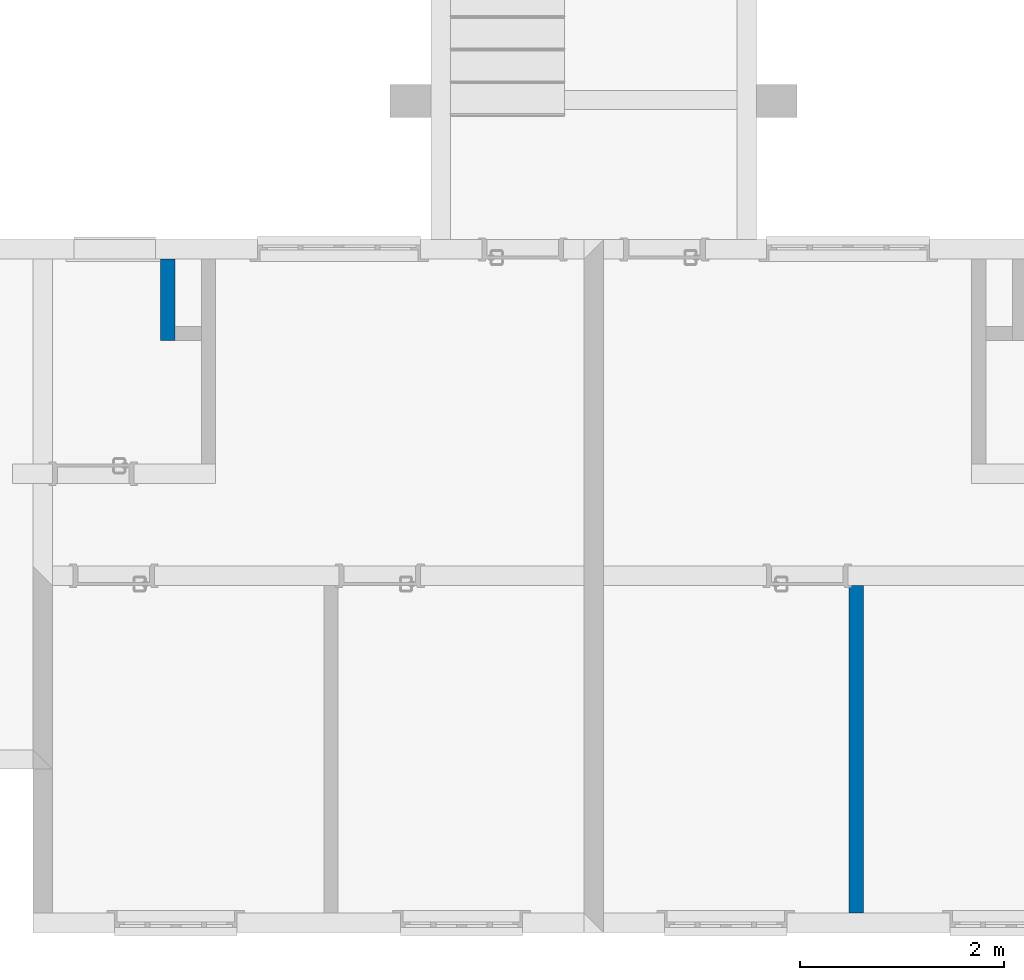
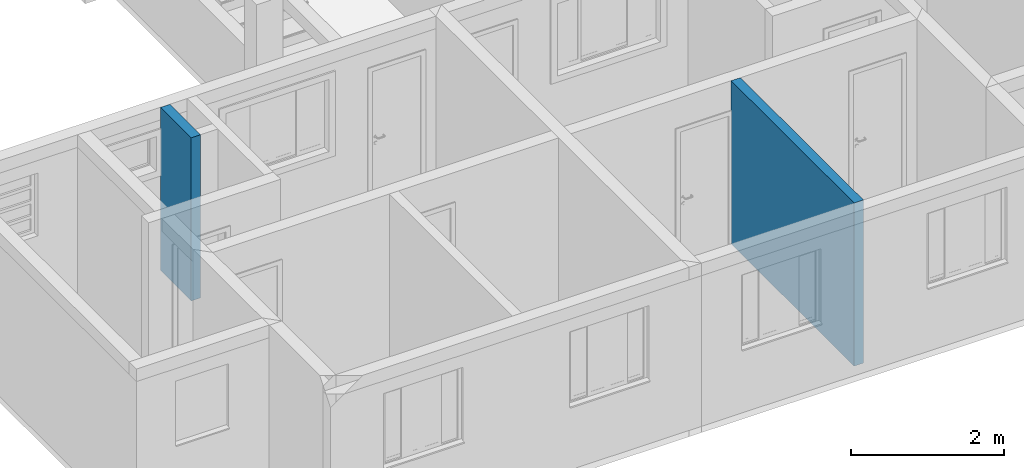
# One storey, part 14 of 47: 2 walls.
"""IFC2X3 building model written with IfcOpenShell, lengths in millimetres."""

from ifc_helpers import new_model, entity, si_unit, converted_unit, derived_unit, money_unit, direction, frame, origin_with_axes, place, context, subcontext, project, spatial, polyline, outline, extrude, material, layer, layer_set, layer_usage, type_object, element, save


model = new_model("IFC2X3")

# Units and contexts
model_context = context("Model", 3, precision=0.01, world=origin_with_axes(), true_north=direction((0.0, 1.0)))
body_context = subcontext(model_context, "Body", "Model", "MODEL_VIEW")
ifc_project = project(units=[si_unit("LENGTHUNIT", "METRE", prefix="MILLI"), si_unit("AREAUNIT", "SQUARE_METRE"), si_unit("VOLUMEUNIT", "CUBIC_METRE"), converted_unit("PLANEANGLEUNIT", "DEGREE", entity("IfcPlaneAngleMeasure", 0.0174532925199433), si_unit("PLANEANGLEUNIT", "RADIAN"), dimensions=[0, 0, 0, 0, 0, 0, 0]), money_unit("USD"), converted_unit("TIMEUNIT", "Year", entity("IfcTimeMeasure", 31557600.0), si_unit("TIMEUNIT", "SECOND"), dimensions=[0, 0, 1, 0, 0, 0, 0]), si_unit("MASSUNIT", "GRAM", prefix="KILO"), si_unit("THERMODYNAMICTEMPERATUREUNIT", "DEGREE_CELSIUS"), si_unit("LUMINOUSINTENSITYUNIT", "LUMEN"), si_unit("ENERGYUNIT", "JOULE", prefix="MEGA"), derived_unit("THERMALCONDUCTANCEUNIT", [(si_unit("POWERUNIT", "WATT"), 1), (si_unit("LENGTHUNIT", "METRE"), -1), (si_unit("THERMODYNAMICTEMPERATUREUNIT", "KELVIN"), -1)]), derived_unit("SPECIFICHEATCAPACITYUNIT", [(si_unit("ENERGYUNIT", "JOULE"), 1), (si_unit("MASSUNIT", "GRAM", prefix="KILO"), -1), (si_unit("THERMODYNAMICTEMPERATUREUNIT", "KELVIN"), -1)]), derived_unit("MASSDENSITYUNIT", [(si_unit("MASSUNIT", "GRAM", prefix="KILO"), 1), (si_unit("VOLUMEUNIT", "CUBIC_METRE"), -1)])], contexts=[model_context])

# Site, building, storey
site_placement = place(None, origin_with_axes())
site = spatial("IfcSite", under=ifc_project, at=site_placement, Name="Local", CompositionType="ELEMENT")
building_placement = place(site_placement, origin_with_axes())
building = spatial("IfcBuilding", under=site, at=building_placement, Name="Construção", CompositionType="ELEMENT")
storey_placement = place(building_placement, origin_with_axes())
storey = spatial("IfcBuildingStorey", under=building, at=storey_placement, Name="Pavimento Tipo", CompositionType="ELEMENT", Elevation=0.0)

# Walls
ifc_material = material(Name="Concreto")
ifc_layer = layer(ifc_material, 140.0, ventilated="UNKNOWN")
ifc_layer_set = layer_set([ifc_layer], Name="Concreto 140")
ifc_layer_usage_1 = layer_usage(ifc_layer_set, "AXIS2", "POSITIVE", 0.0)
wall_type = type_object("IfcWallType", Name="Concreto 140", PredefinedType="NOTDEFINED")
wall_1_placement = place(storey_placement, frame((3452.566997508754, 1986.981417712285, 0.0), z_axis=(0.0, 0.0, 1.0), x_axis=(0.0, -1.0, 0.0)))
element("IfcWallStandardCase", 1, at=wall_1_placement, inside=storey, type_object=wall_type, material=ifc_layer_usage_1, Name="Apartamento 4 - Parede-085", context=body_context, shape_type="SweptSolid", body=[
    extrude(outline(polyline([(189.9999999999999, 0.0), (3399.999999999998, 0.0), (3399.999999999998, 140.0000000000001), (189.9999999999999, 140.0000000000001), (189.9999999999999, 0.0)])), origin_with_axes(), (0.0, 0.0, 1.0), 2600.0),
])
ifc_layer_usage_2 = layer_usage(ifc_layer_set, "AXIS2", "NEGATIVE", 140.0)
wall_2_placement = place(storey_placement, frame((-3297.433002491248, 4996.981417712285, 0.0), z_axis=(0.0, 0.0, 1.0), x_axis=(0.0, -1.0, 0.0)))
element("IfcWallStandardCase", 2, at=wall_2_placement, inside=storey, type_object=wall_type, material=ifc_layer_usage_2, Name="Apartamento 3 - Parede-096", context=body_context, shape_type="SweptSolid", body=[
    extrude(outline(polyline([(0.0, 0.0), (800.0000000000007, 0.0), (800.0000000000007, 140.0000000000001), (0.0, 140.0000000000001), (0.0, 0.0)])), origin_with_axes(), (0.0, 0.0, 1.0), 2600.0),
])

save(model, "model.ifc")
